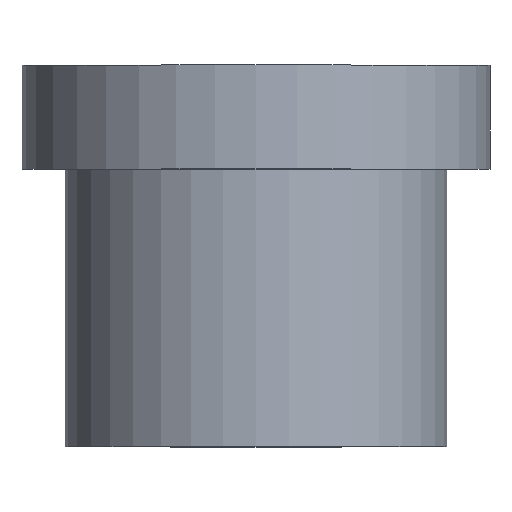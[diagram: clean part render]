
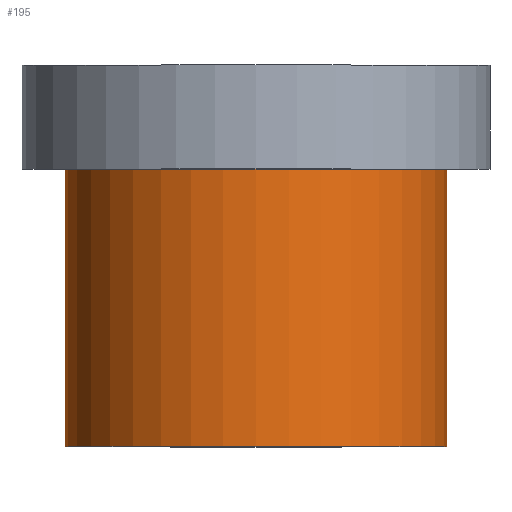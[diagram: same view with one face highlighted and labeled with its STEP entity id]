
A CAD part, top view. The second image highlights one B-rep face of the part: STEP entity #195.
In plain terms, the highlighted cylindrical face has radius 11 mm (diameter 22 mm), a full revolution.
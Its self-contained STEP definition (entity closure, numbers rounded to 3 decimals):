
#32=ORIENTED_EDGE('',*,*,#50,.T.);
#33=ORIENTED_EDGE('',*,*,#49,.F.);
#49=EDGE_CURVE('',#59,#59,#69,.T.);
#50=EDGE_CURVE('',#60,#60,#70,.T.);
#59=VERTEX_POINT('',#280);
#60=VERTEX_POINT('',#283);
#69=CIRCLE('',#213,11.);
#70=CIRCLE('',#215,11.);
#82=EDGE_LOOP('',(#32));
#83=EDGE_LOOP('',(#33));
#102=FACE_BOUND('',#82,.T.);
#103=FACE_BOUND('',#83,.T.);
#117=CYLINDRICAL_SURFACE('',#214,11.);
#195=ADVANCED_FACE('',(#102,#103),#117,.T.);
#213=AXIS2_PLACEMENT_3D('',#279,#241,#242);
#214=AXIS2_PLACEMENT_3D('',#281,#243,#244);
#215=AXIS2_PLACEMENT_3D('',#282,#245,#246);
#241=DIRECTION('',(0.,-1.,0.));
#242=DIRECTION('',(0.,0.,-1.));
#243=DIRECTION('',(0.,-1.,0.));
#244=DIRECTION('',(0.,0.,-1.));
#245=DIRECTION('',(0.,-1.,0.));
#246=DIRECTION('',(0.,0.,-1.));
#279=CARTESIAN_POINT('',(0.,0.,0.));
#280=CARTESIAN_POINT('',(0.,0.,-11.));
#281=CARTESIAN_POINT('',(0.,0.,0.));
#282=CARTESIAN_POINT('',(0.,16.,0.));
#283=CARTESIAN_POINT('',(0.,16.,-11.));
